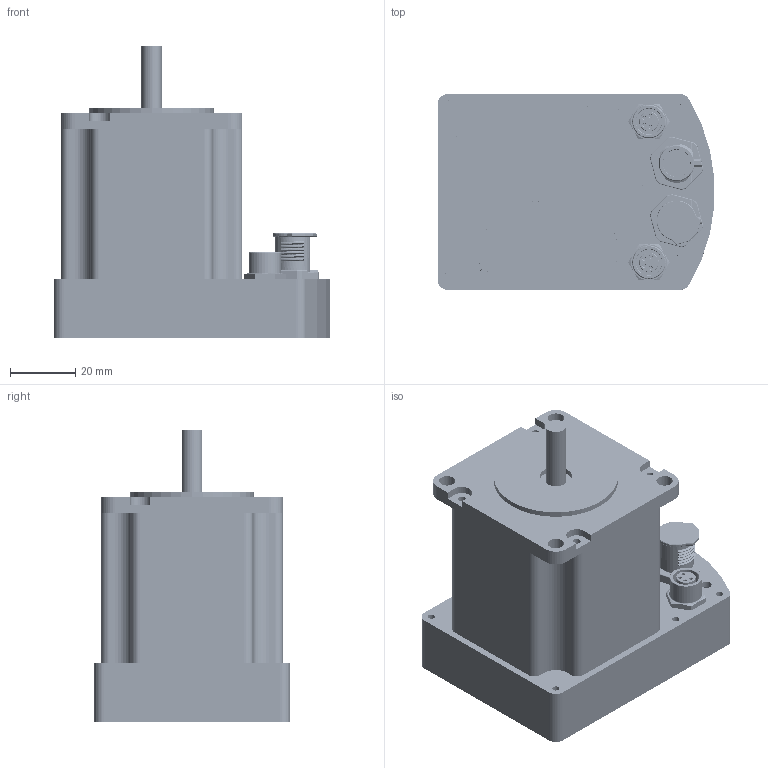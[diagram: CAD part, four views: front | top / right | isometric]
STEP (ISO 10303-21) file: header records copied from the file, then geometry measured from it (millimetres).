
FILE_DESCRIPTION (( 'STEP AP214' ), '1' );
FILE_NAME ('iMOT232S TM-CAT.STEP', '2025-02-03T15:43:12', ( '' ), ( '' ), 'SwSTEP 2.0', 'SolidWorks 2017', '' );
FILE_SCHEMA (( 'AUTOMOTIVE_DESIGN' ));
Length unit declared in the file: millimetre
Products named in the file (8): iMOT232S TM-CAT; DOP; P036.752.0012 iMOT23 Base Plate 10A_D‚faut; Ghidaj; Motor 232; P064.710.1723; P036.752.0003 iMOT23 Cover 01A_D‚faut; P036.710.0006.01A - iMOT36x TM ECAT
Assembly tree (7 placements, depth 2):
  iMOT232S TM-CAT
    P036.710.0006.01A - iMOT36x TM ECAT
    P064.710.1723
    Ghidaj
    P036.752.0012 iMOT23 Base Plate 10A_D‚faut
    DOP
    P036.752.0003 iMOT23 Cover 01A_D‚faut
    Motor 232
Bounding box: 84.83 x 60 x 89.6 mm (x, y, z)
Volume: 171367.6 mm3; surface area: 76695.3 mm2
Topology: 300 solids, 409 shells, 9016 faces, 22976 edges, 14901 vertices
Faces by surface type: plane 5384, cylinder 2507, bspline 592, torus 239, cone 154, sphere 140
Entity records: 400753 total; most frequent: CARTESIAN_POINT 86989, ORIENTED_EDGE 45470, DIRECTION 42940, EDGE_CURVE 22783, VECTOR 15548, LINE 15548, VERTEX_POINT 14843, AXIS2_PLACEMENT_3D 13696
